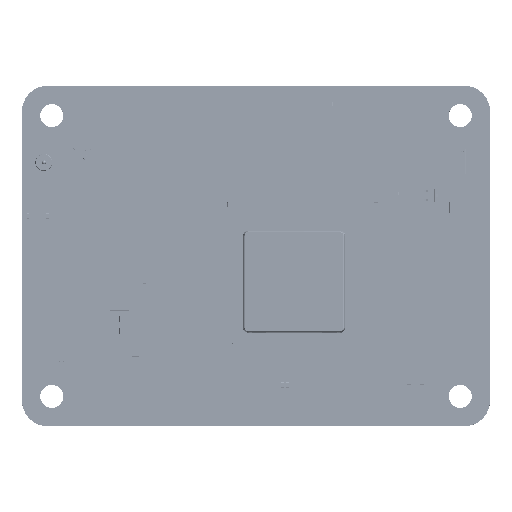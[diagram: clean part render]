
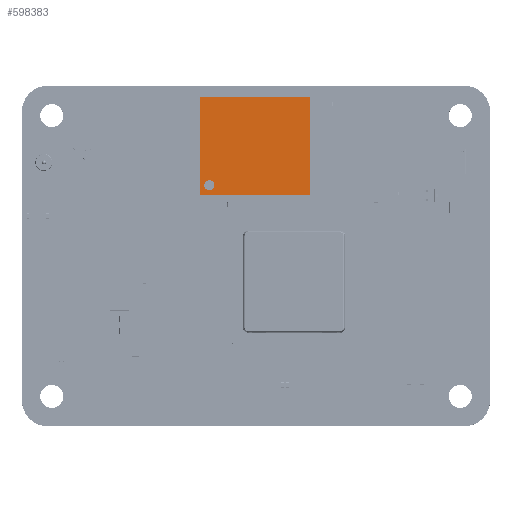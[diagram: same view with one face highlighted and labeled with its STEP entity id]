
A CAD part, top view. The second image highlights one B-rep face of the part: STEP entity #598383.
In plain terms, the highlighted planar face has unit normal (0, 0, 1).
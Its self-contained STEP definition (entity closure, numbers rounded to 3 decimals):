
#11993=FACE_BOUND('',#110334,.T.);
#71436=FACE_OUTER_BOUND('',#110333,.T.);
#110333=EDGE_LOOP('',(#536300,#536301,#536302,#536303));
#110334=EDGE_LOOP('',(#536304));
#170611=LINE('',#1095458,#231638);
#170614=LINE('',#1095463,#231641);
#170616=LINE('',#1095467,#231643);
#170617=LINE('',#1095469,#231644);
#231638=VECTOR('',#803268,1000.);
#231641=VECTOR('',#803273,1000.);
#231643=VECTOR('',#803277,1000.);
#231644=VECTOR('',#803280,1000.);
#249618=CIRCLE('',#648993,0.6);
#299953=VERTEX_POINT('',#1095439);
#299959=VERTEX_POINT('',#1095455);
#299960=VERTEX_POINT('',#1095457);
#299961=VERTEX_POINT('',#1095461);
#299962=VERTEX_POINT('',#1095465);
#379272=EDGE_CURVE('',#299953,#299953,#249618,.T.);
#379279=EDGE_CURVE('',#299960,#299959,#170611,.T.);
#379282=EDGE_CURVE('',#299959,#299961,#170614,.T.);
#379284=EDGE_CURVE('',#299961,#299962,#170616,.T.);
#379285=EDGE_CURVE('',#299962,#299960,#170617,.T.);
#536300=ORIENTED_EDGE('',*,*,#379279,.T.);
#536301=ORIENTED_EDGE('',*,*,#379282,.T.);
#536302=ORIENTED_EDGE('',*,*,#379284,.T.);
#536303=ORIENTED_EDGE('',*,*,#379285,.T.);
#536304=ORIENTED_EDGE('',*,*,#379272,.T.);
#564918=PLANE('',#649001);
#598383=ADVANCED_FACE('',(#71436,#11993),#564918,.T.);
#648993=AXIS2_PLACEMENT_3D('',#1095441,#803253,#803254);
#649001=AXIS2_PLACEMENT_3D('',#1095470,#803281,#803282);
#803253=DIRECTION('center_axis',(0.,0.,
-1.));
#803254=DIRECTION('ref_axis',(-1.,0.,0.));
#803268=DIRECTION('',(-1.,0.,0.));
#803273=DIRECTION('',(0.,-1.,0.));
#803277=DIRECTION('',(1.,0.,0.));
#803280=DIRECTION('',(0.,1.,0.));
#803281=DIRECTION('center_axis',(0.,0.,
1.));
#803282=DIRECTION('ref_axis',(0.,1.,0.));
#1095439=CARTESIAN_POINT('',(22.625,44.313,1.977));
#1095441=CARTESIAN_POINT('Origin',(22.025,44.313,1.977));
#1095455=CARTESIAN_POINT('',(20.875,54.663,1.977));
#1095457=CARTESIAN_POINT('',(33.875,54.663,1.977));
#1095458=CARTESIAN_POINT('',(20.875,54.663,1.977));
#1095461=CARTESIAN_POINT('',(20.875,43.163,1.977));
#1095463=CARTESIAN_POINT('',(20.875,43.163,1.977));
#1095465=CARTESIAN_POINT('',(33.875,43.163,1.977));
#1095467=CARTESIAN_POINT('',(20.875,43.163,1.977));
#1095469=CARTESIAN_POINT('',(33.875,43.163,1.977));
#1095470=CARTESIAN_POINT('Origin',(27.375,48.913,1.977));
